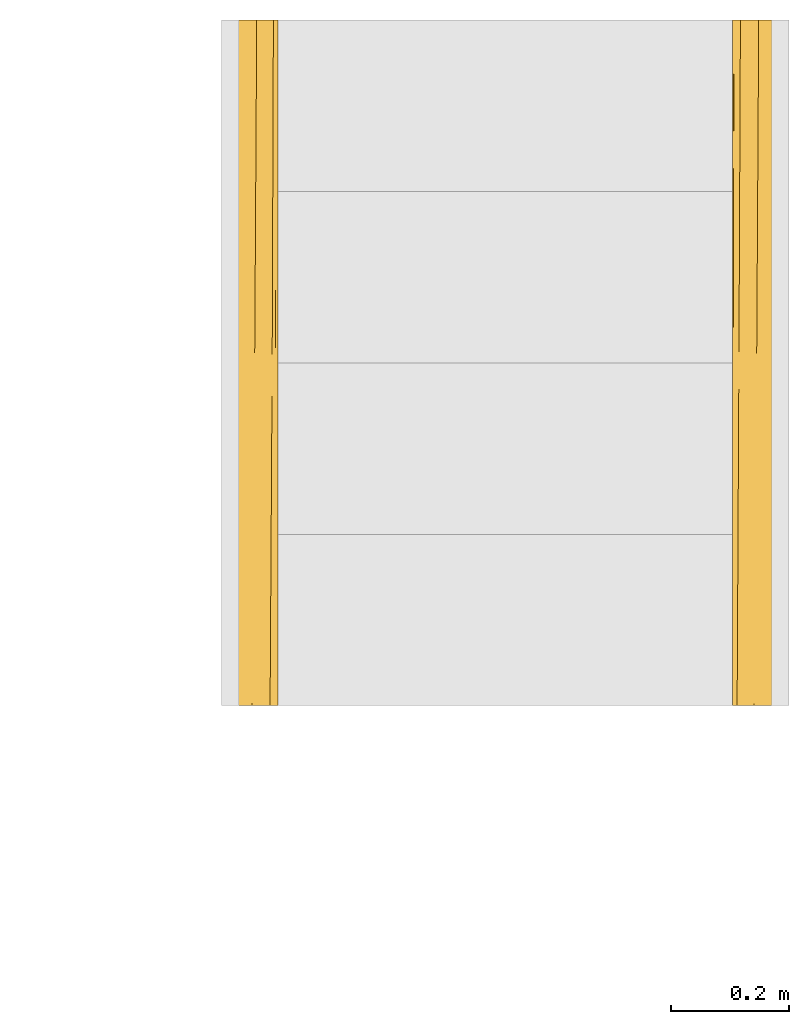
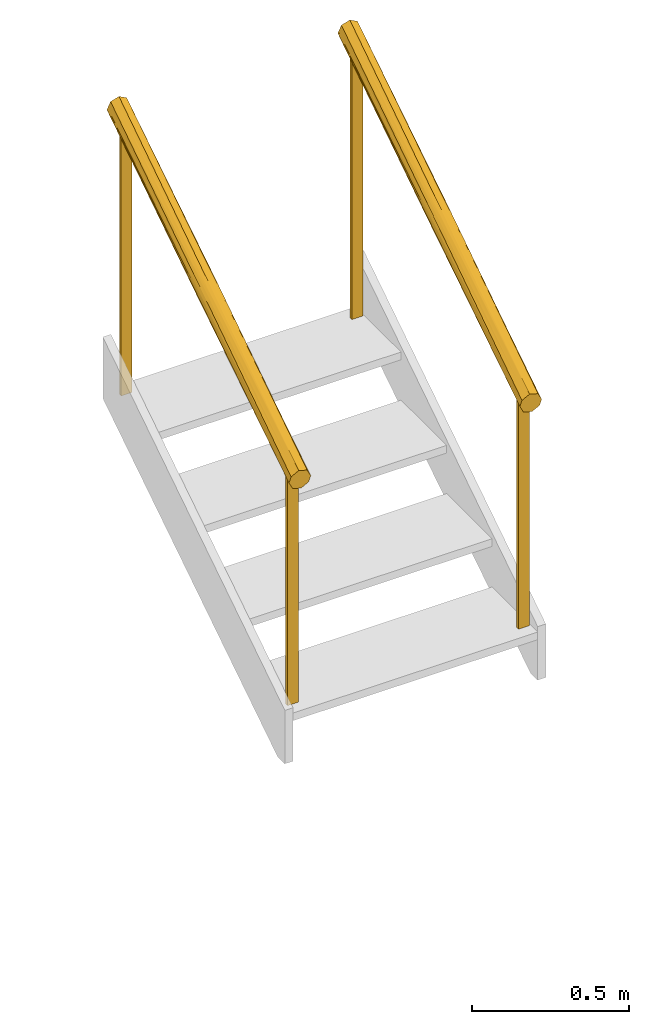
# One storey, part 2 of 4: 2 railings, 1 element without a shape of its own.
"""IFC2X3 building model written with IfcOpenShell, lengths in centimetres."""

from ifc_helpers import new_model, entity, si_unit, converted_unit, derived_unit, direction, frame, origin, place, context, subcontext, project, spatial, faceted_brep, material, material_list, element, aggregate, save


model = new_model("IFC2X3")

# Units and contexts
model_context = context("Model", 3, precision=0.001, world=origin(), true_north=direction((6.12303176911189e-17, 1.0)))
body_context = subcontext(model_context, "Body", "Model", "MODEL_VIEW")
ifc_project = project(units=[si_unit("LENGTHUNIT", "METRE", prefix="CENTI"), si_unit("AREAUNIT", "SQUARE_METRE"), si_unit("VOLUMEUNIT", "CUBIC_METRE"), converted_unit("PLANEANGLEUNIT", "DEGREE", entity("IfcRatioMeasure", 0.0174532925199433), si_unit("PLANEANGLEUNIT", "RADIAN"), dimensions=[0, 0, 0, 0, 0, 0, 0]), si_unit("MASSUNIT", "GRAM", prefix="KILO"), si_unit("TIMEUNIT", "SECOND"), si_unit("FREQUENCYUNIT", "HERTZ"), si_unit("THERMODYNAMICTEMPERATUREUNIT", "DEGREE_CELSIUS"), derived_unit("THERMALTRANSMITTANCEUNIT", [(si_unit("MASSUNIT", "GRAM", prefix="KILO"), 1), (si_unit("THERMODYNAMICTEMPERATUREUNIT", "KELVIN"), -1), (si_unit("TIMEUNIT", "SECOND"), -3)]), derived_unit("VOLUMETRICFLOWRATEUNIT", [(si_unit("LENGTHUNIT", "METRE"), 3), (si_unit("TIMEUNIT", "SECOND"), -1)]), si_unit("ELECTRICCURRENTUNIT", "AMPERE"), si_unit("ELECTRICVOLTAGEUNIT", "VOLT"), si_unit("POWERUNIT", "WATT"), si_unit("FORCEUNIT", "NEWTON", prefix="KILO"), si_unit("ILLUMINANCEUNIT", "LUX"), si_unit("LUMINOUSFLUXUNIT", "LUMEN"), si_unit("LUMINOUSINTENSITYUNIT", "CANDELA"), derived_unit("USERDEFINED", [(si_unit("MASSUNIT", "GRAM", prefix="KILO"), -1), (si_unit("LENGTHUNIT", "METRE"), -2), (si_unit("TIMEUNIT", "SECOND"), 3), (si_unit("LUMINOUSFLUXUNIT", "LUMEN"), 1)]), derived_unit("LINEARVELOCITYUNIT", [(si_unit("LENGTHUNIT", "METRE"), 1), (si_unit("TIMEUNIT", "SECOND"), -1)]), si_unit("PRESSUREUNIT", "PASCAL"), derived_unit("USERDEFINED", [(si_unit("LENGTHUNIT", "METRE"), -2), (si_unit("MASSUNIT", "GRAM", prefix="KILO"), 1), (si_unit("TIMEUNIT", "SECOND"), -2)])], contexts=[model_context])

# Site, building, storey
site_placement = place(None, frame((8.62739174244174, -249.285249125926, 0.0)))
site = spatial("IfcSite", under=ifc_project, at=site_placement, Name="Default", CompositionType="ELEMENT")
building_placement = place(site_placement, origin())
building = spatial("IfcBuilding", under=site, at=building_placement, CompositionType="ELEMENT")
storey_placement = place(building_placement, frame((0.0, 0.0, 724.0)))
storey = spatial("IfcBuildingStorey", under=building, at=storey_placement, Name="724", CompositionType="ELEMENT", Elevation=724.0)

# Stair, railings
stair_placement = place(storey_placement, origin())
stair = element("IfcStair", 1, at=stair_placement, inside=storey, Name="Escalier assemblé:Escalier", ObjectType="Escalier assemblé:Escalier métallique toiture", ShapeType="NOTDEFINED")
ifc_material_1 = material(Name="Peinture - Grise")
ifc_material_2 = material(Name="Pin (1)")
ifc_material_list_1 = material_list([ifc_material_1, ifc_material_2])
railing_1_placement = place(stair_placement, frame((3361.205300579, 5436.9802081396, 18.7142857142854)))
railing_1 = element("IfcRailing", 2, at=railing_1_placement, material=ifc_material_list_1, Name="Garde-corps:Type Bateau", ObjectType="Garde-corps:Type Bateau", PredefinedType="NOTDEFINED", context=body_context, shape_type="Brep", body=[
    faceted_brep([(2.15952722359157, 111.600000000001, 158.041850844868), (2.15952722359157, 110.400000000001, 158.041850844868), (6.15952722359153, 110.400000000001, 158.041850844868), (6.15952722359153, 111.600000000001, 158.041850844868), (2.15952722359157, 111.600000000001, 56.1428571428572), (6.15952722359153, 111.600000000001, 56.1428571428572), (6.15952722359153, 110.400000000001, 56.1428571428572), (2.15952722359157, 110.400000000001, 56.1428571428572)], [[[0, 1, 2, 3]], [[4, 5, 6, 7]], [[1, 0, 4, 7]], [[2, 1, 7, 6]], [[3, 2, 6, 5]], [[0, 3, 5, 4]]]),
    faceted_brep([(2.15952722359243, 5.60000000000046, 89.6379099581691), (2.15952722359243, 4.40000000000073, 89.6379099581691), (6.15952722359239, 4.40000000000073, 89.6379099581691), (6.15952722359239, 5.60000000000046, 89.6379099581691), (2.15952722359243, 5.60000000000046, 0.0), (6.15952722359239, 5.60000000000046, 0.0), (6.15952722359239, 4.40000000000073, 0.0), (2.15952722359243, 4.40000000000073, 0.0)], [[[0, 1, 2, 3]], [[4, 5, 6, 7]], [[1, 0, 4, 7]], [[2, 1, 7, 6]], [[3, 2, 6, 5]], [[0, 3, 5, 4]]]),
    faceted_brep([(3.74141337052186, 0.0, 93.5508670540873), (2.33243630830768, 0.0, 92.8247554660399), (0.923459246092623, 0.0, 92.098643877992), (0.541493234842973, 0.0, 91.0493219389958), (0.159527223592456, 0.0, 90.0), (0.8212660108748, 0.0, 88.6733281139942), (1.48300479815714, 0.0, 87.346656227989), (3.03032293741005, 0.0, 86.8978945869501), (3.80398200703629, 0.0, 86.6735137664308), (4.57764107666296, 0.0, 86.4491329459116), (5.98661813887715, 0.0, 87.1752445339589), (7.3955952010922, 0.0, 87.9013561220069), (7.77756121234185, 0.0, 88.9506780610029), (8.15952722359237, 0.0, 90.0), (7.49778843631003, 0.0, 91.3266718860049), (6.83604964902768, 0.0, 92.6533437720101), (5.28873150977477, 0.0, 93.1021054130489), (1.48300479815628, 116.0, 167.510486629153), (3.03032293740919, 116.0, 167.959248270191), (4.5776410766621, 116.0, 168.40800991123), (5.98661813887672, 116.0, 167.681898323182), (7.39559520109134, 116.0, 166.955786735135), (7.77756121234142, 116.0, 165.906464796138), (8.1595272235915, 116.0, 164.857142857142), (7.49778843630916, 116.0, 163.530470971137), (6.83604964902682, 116.0, 162.203799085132), (5.28873150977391, 116.0, 161.755037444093), (3.741413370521, 116.0, 161.306275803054), (2.33243630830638, 116.0, 162.032387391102), (0.923459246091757, 116.0, 162.75849897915), (0.541493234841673, 116.0, 163.807820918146), (0.15952722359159, 116.0, 164.857142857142), (0.402591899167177, 116.0, 165.344445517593), (0.821266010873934, 116.0, 166.183814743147), (0.43471848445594, 58.3586713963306, 126.358597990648), (0.926622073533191, 48.239823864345, 119.027608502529), (1.68069437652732, 61.772669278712, 127.060965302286), (2.63562534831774, 60.7691745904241, 125.914412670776), (6.30238232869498, 64.003480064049, 128.287871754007), (5.29358713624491, 50.7693668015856, 119.338573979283), (0.159527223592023, 46.005399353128, 119.688213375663), (4.16171593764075, 58.0600239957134, 123.896880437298), (7.13653839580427, 58.1591133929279, 125.146569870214), (7.75045588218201, 53.9820586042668, 123.26279117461), (8.1595272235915, 69.9945974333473, 135.168927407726), (0.159527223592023, 69.9945974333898, 135.168927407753), (8.15952722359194, 46.0053993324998, 119.688213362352), (7.77283642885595, 61.4350445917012, 131.176816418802), (7.18223164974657, 56.2451627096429, 128.634574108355), (6.35495924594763, 53.470740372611, 127.490323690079), (5.36874986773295, 67.0726065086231, 136.686677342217), (4.21998223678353, 56.5794092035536, 130.081853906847), (0.271597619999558, 65.1150216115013, 132.859280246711), (3.12887352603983, 53.1560270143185, 127.752527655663), (1.220721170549, 56.8109259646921, 129.08338121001), (0.592674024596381, 52.9920205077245, 125.812798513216), (2.11923389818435, 66.5464867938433, 136.014825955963)], [[[0, 1, 2, 3, 4, 5, 6, 7, 8, 9, 10, 11, 12, 13, 14, 15, 16]], [[17, 18, 19, 20, 21, 22, 23, 24, 25, 26, 27, 28, 29, 30, 31, 32, 33]], [[34, 35, 5]], [[4, 34, 5]], [[29, 36, 35]], [[36, 37, 6]], [[28, 37, 36]], [[7, 6, 37, 8]], [[38, 39, 26]], [[40, 34, 4]], [[26, 39, 41]], [[42, 38, 25]], [[11, 43, 12]], [[6, 35, 36]], [[42, 10, 38]], [[35, 6, 5]], [[9, 41, 39]], [[24, 23, 44]], [[34, 30, 29]], [[9, 8, 41]], [[30, 40, 45, 31]], [[28, 36, 29]], [[37, 28, 27]], [[37, 27, 41]], [[37, 41, 8]], [[41, 27, 26]], [[39, 10, 9]], [[10, 39, 38]], [[35, 34, 29]], [[30, 34, 40]], [[11, 10, 42]], [[25, 38, 26]], [[12, 44, 46, 13]], [[42, 25, 24]], [[24, 43, 42]], [[42, 43, 11]], [[43, 24, 44]], [[12, 43, 44]], [[21, 47, 22]], [[48, 49, 15]], [[49, 50, 16]], [[16, 50, 51]], [[32, 45, 52]], [[0, 51, 53]], [[54, 17, 33]], [[54, 55, 2]], [[33, 52, 55]], [[14, 13, 46]], [[54, 33, 55]], [[3, 2, 55]], [[52, 45, 40, 4]], [[56, 54, 1]], [[56, 1, 53]], [[48, 20, 49]], [[17, 54, 56]], [[32, 31, 45]], [[53, 51, 18]], [[54, 2, 1]], [[56, 18, 17]], [[18, 56, 53]], [[19, 18, 51]], [[0, 53, 1]], [[19, 51, 50]], [[51, 0, 16]], [[50, 20, 19]], [[20, 50, 49]], [[21, 20, 48]], [[15, 49, 16]], [[22, 46, 44, 23]], [[48, 15, 14]], [[14, 47, 48]], [[52, 4, 3]], [[47, 14, 46]], [[32, 52, 33]], [[55, 52, 3]], [[48, 47, 21]], [[22, 47, 46]]]),
])
ifc_material_list_2 = material_list([ifc_material_1, ifc_material_2])
railing_2_placement = place(stair_placement, frame((3276.285300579, 5436.9802081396, 18.7142857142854)))
railing_2 = element("IfcRailing", 3, at=railing_2_placement, material=ifc_material_list_2, Name="Garde-corps:Type Bateau", ObjectType="Garde-corps:Type Bateau", PredefinedType="NOTDEFINED", context=body_context, shape_type="Brep", body=[
    faceted_brep([(6.15952722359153, 111.600000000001, 158.041850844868), (2.15952722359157, 111.600000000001, 158.041850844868), (2.15952722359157, 110.400000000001, 158.041850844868), (6.15952722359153, 110.400000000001, 158.041850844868), (6.15952722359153, 111.600000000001, 56.1428571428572), (6.15952722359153, 110.400000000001, 56.1428571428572), (2.15952722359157, 110.400000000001, 56.1428571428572), (2.15952722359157, 111.600000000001, 56.1428571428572)], [[[0, 1, 2, 3]], [[4, 5, 6, 7]], [[3, 5, 4, 0]], [[2, 6, 5, 3]], [[1, 7, 6, 2]], [[0, 4, 7, 1]]]),
    faceted_brep([(6.15952722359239, 5.60000000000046, 89.6379099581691), (2.15952722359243, 5.60000000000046, 89.6379099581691), (2.15952722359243, 4.40000000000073, 89.6379099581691), (6.15952722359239, 4.40000000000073, 89.6379099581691), (6.15952722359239, 5.60000000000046, 0.0), (6.15952722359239, 4.40000000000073, 0.0), (2.15952722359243, 4.40000000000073, 0.0), (2.15952722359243, 5.60000000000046, 0.0)], [[[0, 1, 2, 3]], [[4, 5, 6, 7]], [[3, 5, 4, 0]], [[2, 6, 5, 3]], [[1, 7, 6, 2]], [[0, 4, 7, 1]]]),
    faceted_brep([(3.74141337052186, 0.0, 93.5508670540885), (2.33243630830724, 0.0, 92.8247554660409), (0.923459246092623, 0.0, 92.0986438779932), (0.54149323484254, 0.0, 91.0493219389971), (0.159527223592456, 0.0, 90.0), (0.8212660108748, 0.0, 88.6733281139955), (1.48300479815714, 0.0, 87.3466562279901), (3.03032293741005, 0.0, 86.8978945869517), (3.80398200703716, 0.0, 86.6735137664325), (4.57764107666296, 0.0, 86.4491329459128), (5.98661813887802, 0.0, 87.1752445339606), (7.3955952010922, 0.0, 87.9013561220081), (7.77756121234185, 0.0, 88.9506780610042), (8.15952722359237, 0.0, 90.0), (7.49778843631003, 0.0, 91.3266718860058), (6.83604964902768, 0.0, 92.6533437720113), (5.28873150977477, 0.0, 93.1021054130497), (1.48300479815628, 116.0, 167.510486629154), (3.03032293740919, 116.0, 167.959248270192), (4.5776410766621, 116.0, 168.408009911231), (5.98661813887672, 116.0, 167.681898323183), (7.39559520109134, 116.0, 166.955786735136), (7.77756121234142, 116.0, 165.90646479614), (8.1595272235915, 116.0, 164.857142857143), (7.49778843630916, 116.0, 163.530470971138), (6.83604964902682, 116.0, 162.203799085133), (5.28873150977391, 116.0, 161.755037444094), (3.741413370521, 116.0, 161.306275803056), (2.33243630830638, 116.0, 162.032387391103), (0.923459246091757, 116.0, 162.758498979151), (0.541493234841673, 116.0, 163.807820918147), (0.15952722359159, 116.0, 164.857142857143), (0.402591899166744, 116.0, 165.344445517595), (0.821266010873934, 116.0, 166.183814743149), (0.43471848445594, 58.3586713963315, 126.35859799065), (0.926622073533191, 48.2398238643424, 119.027608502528), (1.68069437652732, 61.7726692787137, 127.060965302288), (2.63562534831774, 60.7691745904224, 125.914412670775), (6.30238232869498, 64.0034800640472, 128.287871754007), (5.29358713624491, 50.7693668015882, 119.338573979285), (0.159527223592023, 46.005399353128, 119.688213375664), (4.16171593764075, 58.0600239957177, 123.896880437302), (7.13653839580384, 58.1591133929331, 125.146569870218), (7.75045588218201, 53.9820586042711, 123.262791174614), (8.15952722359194, 69.9945974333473, 135.168927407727), (0.159527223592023, 69.9945974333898, 135.168927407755), (8.15952722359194, 46.0053993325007, 119.688213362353), (7.77283642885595, 61.435044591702, 131.176816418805), (7.18223164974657, 56.2451627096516, 128.634574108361), (6.35495924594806, 53.4707403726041, 127.490323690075), (5.36874986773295, 67.0726065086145, 136.686677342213), (4.21998223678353, 56.5794092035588, 130.081853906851), (0.271597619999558, 65.1150216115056, 132.859280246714), (3.12887352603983, 53.1560270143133, 127.752527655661), (1.220721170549, 56.810925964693, 129.083381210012), (0.592674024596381, 52.9920205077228, 125.812798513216), (2.11923389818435, 66.5464867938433, 136.014825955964)], [[[0, 1, 2, 3, 4, 5, 6, 7, 8, 9, 10, 11, 12, 13, 14, 15, 16]], [[17, 18, 19, 20, 21, 22, 23, 24, 25, 26, 27, 28, 29, 30, 31, 32, 33]], [[34, 35, 5]], [[4, 34, 5]], [[29, 36, 35]], [[36, 37, 6]], [[28, 37, 36]], [[7, 6, 37, 8]], [[38, 39, 26]], [[40, 34, 4]], [[26, 39, 41]], [[42, 38, 25]], [[11, 43, 12]], [[6, 35, 36]], [[42, 10, 38]], [[35, 6, 5]], [[9, 41, 39]], [[24, 23, 44]], [[34, 30, 29]], [[9, 8, 41]], [[30, 40, 45, 31]], [[28, 36, 29]], [[37, 28, 27]], [[37, 27, 41]], [[37, 41, 8]], [[41, 27, 26]], [[39, 10, 9]], [[10, 39, 38]], [[35, 34, 29]], [[30, 34, 40]], [[11, 10, 42]], [[25, 38, 26]], [[12, 44, 46, 13]], [[42, 25, 24]], [[24, 43, 42]], [[42, 43, 11]], [[43, 24, 44]], [[12, 43, 44]], [[21, 47, 22]], [[48, 49, 15]], [[49, 50, 16]], [[16, 50, 51]], [[32, 45, 52]], [[0, 51, 53]], [[54, 17, 33]], [[54, 55, 2]], [[33, 52, 55]], [[14, 13, 46]], [[54, 33, 55]], [[3, 2, 55]], [[52, 45, 40, 4]], [[56, 54, 1]], [[56, 1, 53]], [[48, 20, 49]], [[17, 54, 56]], [[32, 31, 45]], [[53, 51, 18]], [[54, 2, 1]], [[56, 18, 17]], [[18, 56, 53]], [[19, 18, 51]], [[0, 53, 1]], [[19, 51, 50]], [[51, 0, 16]], [[50, 20, 19]], [[20, 50, 49]], [[21, 20, 48]], [[15, 49, 16]], [[22, 46, 44, 23]], [[48, 15, 14]], [[14, 47, 48]], [[52, 4, 3]], [[47, 14, 46]], [[32, 52, 33]], [[55, 52, 3]], [[48, 47, 21]], [[22, 47, 46]]]),
])
aggregate(stair, [railing_1, railing_2])

save(model, "model.ifc")
